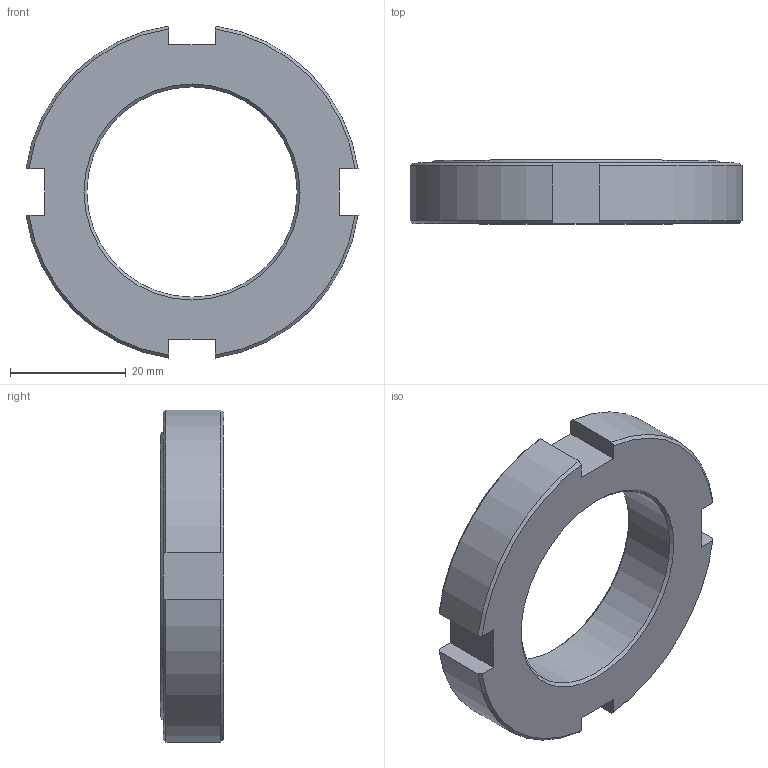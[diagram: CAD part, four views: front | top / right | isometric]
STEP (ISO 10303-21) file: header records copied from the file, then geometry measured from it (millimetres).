
FILE_DESCRIPTION(/* description */ (''),/* implementation_level */ '2;1');
FILE_NAME(/* name */ 'C:\Users\Jefferson\Desktop\Biblioteca Pro Nitro 2024\Flanges\PNB-24-XXX\PNB-24-M38.stp',/* time_stamp */ '2024-01-29T14:38:07-03:00',/* author */ ('Jefferson'),/* organization */ (''),/* preprocessor_version */ 'ST-DEVELOPER v18.1',/* originating_system */ 'Autodesk Inventor 2021',/* authorisation */ '');
FILE_SCHEMA (('AUTOMOTIVE_DESIGN { 1 0 10303 214 3 1 1 }'));
Length unit declared in the file: millimetre
Products named in the file (1): PNB-24-M38
Bounding box: 57.45 x 11 x 57.45 mm (x, y, z)
Volume: 16059.5 mm3; surface area: 6313.7 mm2
Topology: 1 solids, 1 shells, 197 faces, 533 edges, 355 vertices
Faces by surface type: plane 110, bspline 71, cone 11, cylinder 5
Full cylindrical faces by diameter (mm): 36.376 x1
Entity records: 6537 total; most frequent: CARTESIAN_POINT 2041, ORIENTED_EDGE 1066, DIRECTION 652, EDGE_CURVE 533, VERTEX_POINT 355, LINE 352, VECTOR 352, EDGE_LOOP 216
